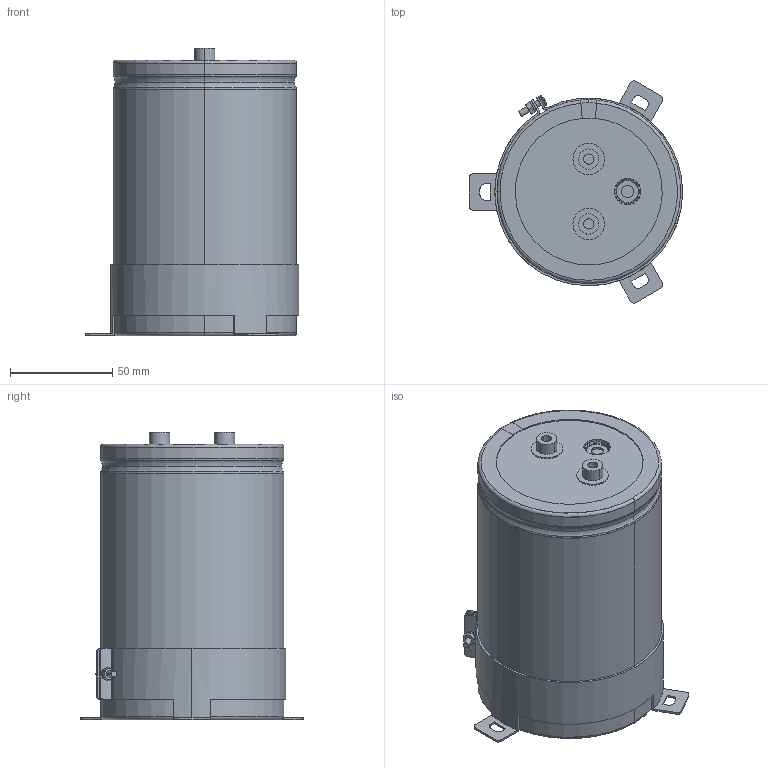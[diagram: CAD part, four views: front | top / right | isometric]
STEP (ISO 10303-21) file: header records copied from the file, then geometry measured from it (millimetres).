
FILE_DESCRIPTION(('STEP AP214'),'1');
FILE_NAME('90x135_Screw.stp','2022-03-14T08:59:53',(' '),(' '),'Spatial InterOp 3D',' ',' ');
FILE_SCHEMA(('AUTOMOTIVE_DESIGN { 1 0 10303 214 1 1 1 1 }'));
Length unit declared in the file: metre
Products named in the file (10): 90x135_Screw; Component1; Component2; Component3; Component4; Component5; Component6; Component7; Component8; Component9
Assembly tree (9 placements, depth 2):
  90x135_Screw
    Component1
    Component2
    Component3
    Component4
    Component5
    Component6
    Component7
    Component8
    Component9
Bounding box: 104.5 x 108.86 x 141 mm (x, y, z)
Volume: 861393.2 mm3; surface area: 154061.1 mm2
Topology: 9 solids, 9 shells, 352 faces, 873 edges, 551 vertices
Faces by surface type: plane 112, cylinder 110, torus 90, cone 38, sphere 2
Entity records: 11474 total; most frequent: DIRECTION 2126, CARTESIAN_POINT 1918, ORIENTED_EDGE 1746, AXIS2_PLACEMENT_3D 919, EDGE_CURVE 873, VERTEX_POINT 551, CIRCLE 511, EDGE_LOOP 380
